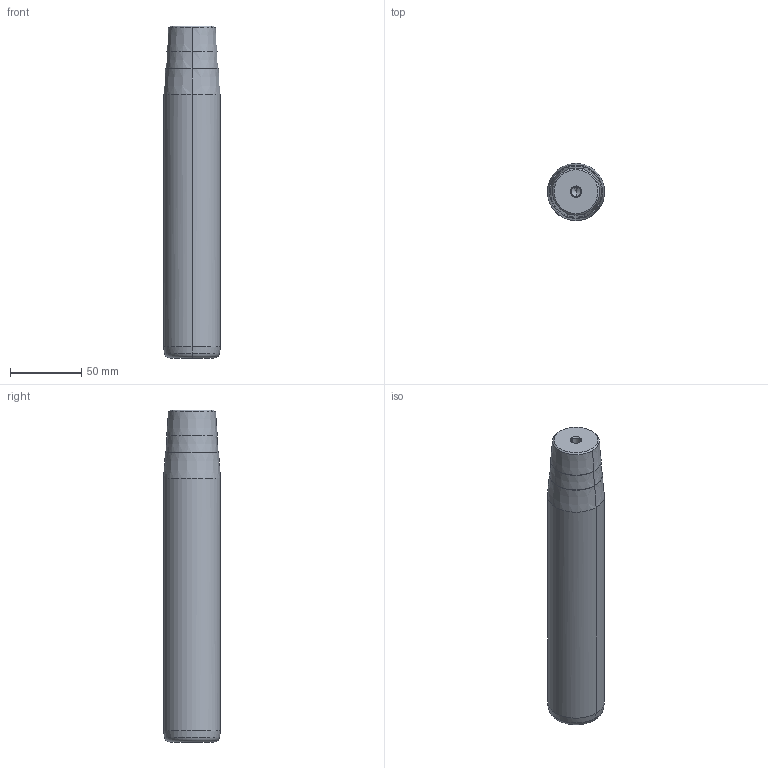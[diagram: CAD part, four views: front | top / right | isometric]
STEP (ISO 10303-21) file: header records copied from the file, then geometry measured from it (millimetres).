
FILE_DESCRIPTION(('CATIA V5 STEP Exchange'),'2;1');
FILE_NAME('C:\Users\Utente\Desktop\IO LAVORO\3D X SITO CF\X SITO\722\722-40x200x233.stp','2021-01-08T15:34:58+00:00',('none'),('none'),'CATIA Version 5 Release 20 GA (IN-10)','CATIA V5 STEP AP203','none');
FILE_SCHEMA(('CONFIG_CONTROL_DESIGN'));
Length unit declared in the file: millimetre
Products named in the file (1): 722-40x200x233
Bounding box: 40 x 40 x 233 mm (x, y, z)
Volume: 279435.9 mm3; surface area: 31616.5 mm2
Topology: 1 solids, 1 shells, 32 faces, 98 edges, 66 vertices
Faces by surface type: cone 22, cylinder 6, plane 2, torus 2
Entity records: 1166 total; most frequent: CARTESIAN_POINT 279, ORIENTED_EDGE 188, DIRECTION 148, EDGE_CURVE 94, AXIS2_PLACEMENT_3D 89, VERTEX_POINT 66, CIRCLE 56, EDGE_LOOP 34
